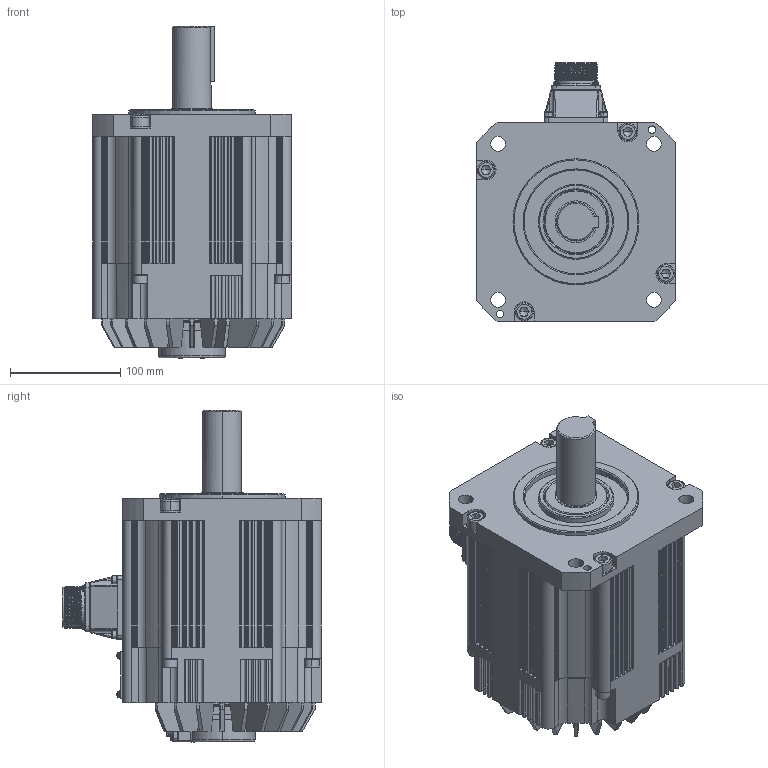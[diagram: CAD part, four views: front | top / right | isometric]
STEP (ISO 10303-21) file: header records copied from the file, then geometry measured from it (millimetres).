
FILE_DESCRIPTION (( 'STEP AP203' ), '1' );
FILE_NAME ('TSM3610N2375E710.STEP', '2018-07-04T09:11:05', ( '' ), ( '' ), 'SwSTEP 2.0', 'SolidWorks 2017', '' );
FILE_SCHEMA (( 'CONFIG_CONTROL_DESIGN' ));
Length unit declared in the file: millimetre
Products named in the file (1): TSM3610N2375E710
Bounding box: 180 x 234.5 x 301 mm (x, y, z)
Volume: 5400201.8 mm3; surface area: 336243.9 mm2
Topology: 1 solids, 24 shells, 2702 faces, 7151 edges, 4584 vertices
Faces by surface type: plane 1451, cylinder 712, bspline 388, cone 137, torus 14
Entity records: 104673 total; most frequent: CARTESIAN_POINT 41160, ORIENTED_EDGE 14186, DIRECTION 11633, EDGE_CURVE 7093, VERTEX_POINT 4584, VECTOR 4339, LINE 4339, AXIS2_PLACEMENT_3D 3647
